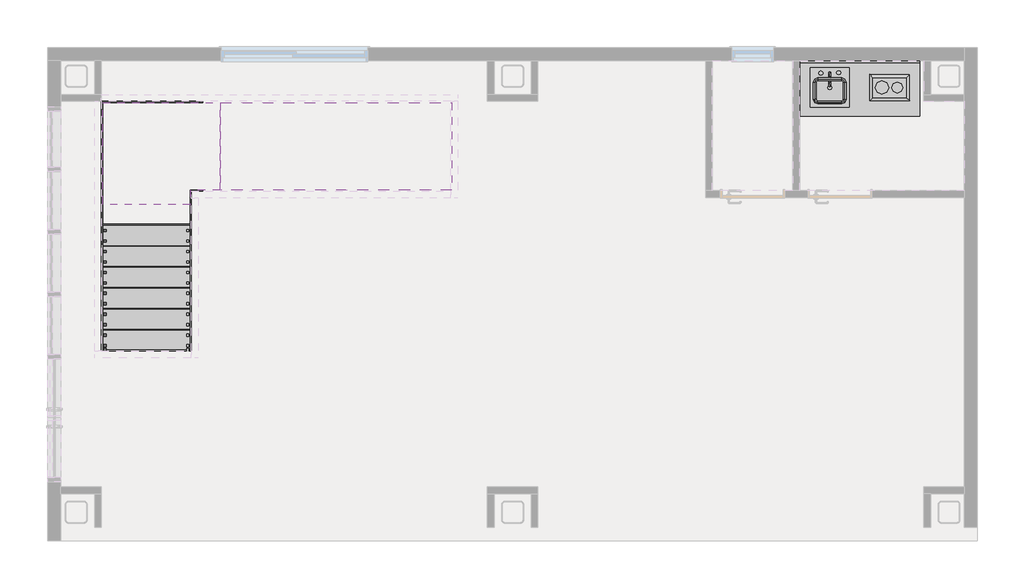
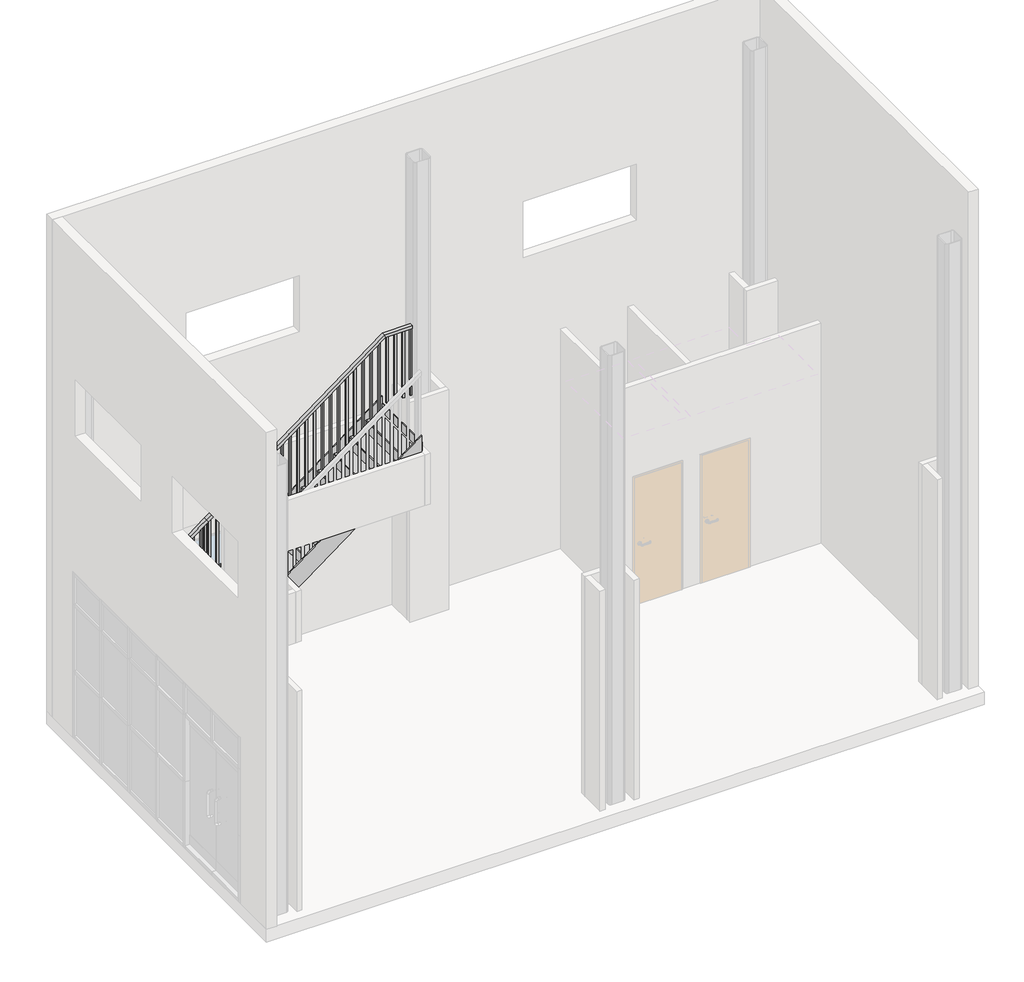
# One storey, part 3 of 3: 7 members, 2 proxies, 2 stair flights, 1 flow terminal, 1 furniture element, 1 railing, 1 slab.
"""IFC4 building model written with IfcOpenShell, lengths in millimetres."""

from ifc_helpers import new_model, si_unit, frame, origin, place, context, project, spatial, polyline, outline, extrude, faceted_brep, transform, mapped, element, save
from components import proxy_1372mm_902c12d3, proxy_305_x_457mm_75991893, flow_terminal_450_x_450mm_65598b4f, furniture_600mm_61525606, slab_593adf1e, stair_flight_b28b8e51, stair_flight_15dfc8d3

model = new_model("IFC4")

# Units and contexts
model_context = context("Model", 3, world=origin())
ifc_project = project(units=[si_unit("LENGTHUNIT", "METRE", prefix="MILLI")], contexts=[model_context])

# Site, building, storey
site = spatial("IfcSite", under=ifc_project)
building = spatial("IfcBuilding", under=site)
storey = spatial("IfcBuildingStorey", under=building, Name="1階", Elevation=200.0)

# Proxies
placement = place(None, origin())
proxy_1372mm_shape = proxy_1372mm_902c12d3(model_context)
element("IfcBuildingElementProxy", 1, Name="システムキッチン - スケール(小) - 3D : 1372mm", ObjectType="システムキッチン - スケール(小) - 3D : 1372mm", at=placement, inside=storey, context=model_context, shape_type="MappedRepresentation", body=[
    mapped(proxy_1372mm_shape, transform((3909.3742386, 2761.0382733, 200.0), x_axis=(1.0, 0.0, 0.0), y_axis=(0.0, 1.0, 0.0), z_axis=(0.0, 0.0, 1.0))),
])
proxy_305_x_457mm_shape = proxy_305_x_457mm_75991893(model_context)
element("IfcBuildingElementProxy", 2, Name="レンジ台-2 ユニット : 305 x 457mm", ObjectType="レンジ台-2 ユニット : 305 x 457mm", at=placement, inside=storey, context=model_context, shape_type="MappedRepresentation", body=[
    mapped(proxy_305_x_457mm_shape, transform((4301.3367391, 2379.8382733, 240.0), x_axis=(0.0, 1.0, 0.0), y_axis=(-1.0, 0.0, 0.0), z_axis=(0.0, 0.0, 1.0))),
])

# Flow terminal
flow_terminal_450_x_450mm_shape = flow_terminal_450_x_450mm_65598b4f(model_context)
element("IfcFlowTerminal", 3, ObjectType="シンク キッチン - アイランド : 450 x 450mm", at=placement, inside=storey, context=model_context, shape_type="MappedRepresentation", body=[
    mapped(flow_terminal_450_x_450mm_shape, transform((3569.422703, 2453.6928722, 240.0), x_axis=(1.0, 0.0, 0.0), y_axis=(0.0, 1.0, 0.0), z_axis=(0.0, 0.0, 1.0))),
])

# Furniture
furniture_600mm_shape = furniture_600mm_61525606(model_context)
element("IfcFurniture", 4, ObjectType="カウンタ シンク開口付 : 600mm", at=placement, inside=storey, context=model_context, shape_type="MappedRepresentation", body=[
    mapped(furniture_600mm_shape, transform((4442.5742386, 2761.0382733, 240.0), x_axis=(1.0, 0.0, 0.0), y_axis=(0.0, 1.0, 0.0), z_axis=(0.0, 0.0, 1.0))),
])

# Members
element("IfcMember", 5, ObjectType="側桁 - メタル - 15 mm 幅 50 mm 奥行き", at=placement, inside=storey, context=model_context, shape_type="SweptSolid", body=[
    extrude(outline(polyline([(-563.9617267, 200.0), (-563.9617267, 486.25), (1021.0382733, 1675.0), (1121.0382733, 1375.0), (-445.6283934, 200.0), (-563.9617267, 200.0)])), frame((-4757.8880564, 0.0, 0.0), z_axis=(1.0, 0.0, 0.0), x_axis=(0.0, 1.0, 0.0)), (0.0, 0.0, 1.0), 15.0),
])
element("IfcMember", 6, ObjectType="側桁 - メタル - 15 mm 幅 50 mm 奥行き", at=placement, inside=storey, context=model_context, shape_type="SweptSolid", body=[
    extrude(outline(polyline([(-563.9617267, 200.0), (-563.9617267, 486.25), (1021.0382733, 1675.0), (1121.0382733, 1375.0), (-445.6283934, 200.0), (-563.9617267, 200.0)])), frame((-3742.8880564, 0.0, 0.0), z_axis=(1.0, 0.0, 0.0), x_axis=(0.0, 1.0, 0.0)), (0.0, 0.0, 1.0), 15.0),
])
element("IfcMember", 7, ObjectType="側桁 - メタル - 15 mm 幅 50 mm 奥行き", at=placement, inside=storey, context=model_context, shape_type="SweptSolid", body=[
    extrude(outline(polyline([(1675.0, -3732.3880564), (1375.0, -3632.3880564), (3531.25, -757.3880564), (3906.25, -757.3880564), (1675.0, -3732.3880564)])), frame((0.0, 2281.5382733, 0.0), z_axis=(0.0, 1.0, 0.0), x_axis=(0.0, 0.0, 1.0)), (0.0, 0.0, 1.0), 15.0),
])
element("IfcMember", 8, ObjectType="側桁 - メタル - 15 mm 幅 50 mm 奥行き", at=placement, inside=storey, context=model_context, shape_type="SweptSolid", body=[
    extrude(outline(polyline([(1678.375, -3727.8880564), (1375.0, -3727.8880564), (1375.0, -3632.3880564), (3531.25, -757.3880564), (3906.25, -757.3880564), (1678.375, -3727.8880564)])), frame((0.0, 1266.5382733, 0.0), z_axis=(0.0, 1.0, 0.0), x_axis=(0.0, 0.0, 1.0)), (0.0, 0.0, 1.0), 15.0),
])
element("IfcMember", 9, ObjectType="側桁 - メタル - 15 mm 幅 50 mm 奥行き", at=placement, inside=storey, context=model_context, shape_type="Brep", body=[
    faceted_brep([(-3732.3880564, 2281.5382733, 1675.0), (-3732.3880564, 2296.5382733, 1675.0), (-4757.8880564, 2296.5382733, 1675.0), (-4742.8880564, 2281.5382733, 1675.0), (-3632.3880564, 2281.5382733, 1375.0), (-4742.8880564, 2281.5382733, 1375.0), (-3632.3880564, 2296.5382733, 1375.0), (-4757.8880564, 2296.5382733, 1375.0)], [[[0, 1, 2, 3]], [[4, 0, 3, 5]], [[6, 4, 5, 7]], [[1, 6, 7, 2]], [[1, 0, 4, 6]], [[2, 7, 5, 3]]]),
])
element("IfcMember", 10, ObjectType="側桁 - メタル - 15 mm 幅 50 mm 奥行き", at=placement, inside=storey, context=model_context, shape_type="Brep", body=[
    faceted_brep([(-4742.8880564, 2281.5382733, 1675.0), (-4757.8880564, 2296.5382733, 1675.0), (-4757.8880564, 1021.0382733, 1675.0), (-4742.8880564, 1021.0382733, 1675.0), (-4742.8880564, 2281.5382733, 1375.0), (-4742.8880564, 1121.0382733, 1375.0), (-4757.8880564, 2296.5382733, 1375.0), (-4757.8880564, 1121.0382733, 1375.0)], [[[0, 1, 2, 3]], [[4, 0, 3, 5]], [[6, 4, 5, 7]], [[1, 6, 7, 2]], [[1, 0, 4, 6]], [[2, 7, 5, 3]]]),
])
element("IfcMember", 11, ObjectType="側桁 - メタル - 15 mm 幅 50 mm 奥行き", at=placement, inside=storey, context=model_context, shape_type="SweptSolid", body=[
    extrude(outline(polyline([(1121.0382733, 1375.0), (1021.0382733, 1675.0), (1281.5382733, 1675.0), (1281.5382733, 1375.0), (1121.0382733, 1375.0)])), frame((-3742.8880564, 0.0, 0.0), z_axis=(1.0, 0.0, 0.0), x_axis=(0.0, 1.0, 0.0)), (0.0, 0.0, 1.0), 15.0),
])

# Railing
element("IfcRailing", 12, ObjectType="1100mm", at=placement, inside=storey, context=model_context, shape_type="SolidModel", body=[
    faceted_brep([(-4742.4880564, -563.9617267, 1480.0), (-4742.4880564, -563.9617267, 1417.5), (-4692.4880564, -563.9617267, 1417.5), (-4692.4880564, -563.9617267, 1480.0), (-4742.4880564, 1116.0382733, 2740.0), (-4742.4880564, 1132.7049399, 2690.0), (-4692.4880564, 1132.7049399, 2690.0), (-4692.4880564, 1116.0382733, 2740.0), (-4742.4880564, 2281.1382733, 2740.0), (-4742.4880564, 2281.1382733, 2690.0), (-4692.4880564, 2231.1382733, 2690.0), (-4692.4880564, 2231.1382733, 2740.0), (-3637.3880564, 2281.1382733, 2740.0), (-3620.7213898, 2281.1382733, 2690.0), (-3620.7213898, 2231.1382733, 2690.0), (-3637.3880564, 2231.1382733, 2740.0), (-3397.3880564, 2281.1382733, 2920.0), (-3367.3880564, 2281.1382733, 2880.0), (-3367.3880564, 2231.1382733, 2880.0), (-3397.3880564, 2231.1382733, 2920.0), (-757.3880564, 2281.1382733, 4900.0), (-740.7213898, 2281.1382733, 4850.0), (-740.7213898, 2231.1382733, 4850.0), (-757.3880564, 2231.1382733, 4900.0), (-337.3880564, 2281.1382733, 4900.0), (-337.3880564, 2231.1382733, 4900.0), (-337.3880564, 2231.1382733, 4850.0), (-337.3880564, 2281.1382733, 4850.0)], [[[0, 1, 2, 3]], [[1, 0, 4, 5]], [[2, 1, 5, 6]], [[3, 2, 6, 7]], [[0, 3, 7, 4]], [[5, 4, 8, 9]], [[6, 5, 9, 10]], [[7, 6, 10, 11]], [[4, 7, 11, 8]], [[9, 8, 12, 13]], [[10, 9, 13, 14]], [[11, 10, 14, 15]], [[8, 11, 15, 12]], [[13, 12, 16, 17]], [[14, 13, 17, 18]], [[15, 14, 18, 19]], [[12, 15, 19, 16]], [[17, 16, 20, 21]], [[18, 17, 21, 22]], [[19, 18, 22, 23]], [[16, 19, 23, 20]], [[24, 25, 26, 27]], [[21, 20, 24, 27]], [[22, 21, 27, 26]], [[23, 22, 26, 25]], [[20, 23, 25, 24]]]),
    extrude(outline(polyline([(-469.8880564, 2268.6382733), (-444.8880564, 2268.6382733), (-444.8880564, 2243.6382733), (-469.8880564, 2243.6382733), (-469.8880564, 2268.6382733)])), frame((0.0, 0.0, 3800.0), z_axis=(0.0, 0.0, 1.0), x_axis=(1.0, 0.0, 0.0)), (0.0, 0.0, 1.0), 1050.0),
    extrude(outline(polyline([(-589.8880564, 2268.6382733), (-564.8880564, 2268.6382733), (-564.8880564, 2243.6382733), (-589.8880564, 2243.6382733), (-589.8880564, 2268.6382733)])), frame((0.0, 0.0, 3800.0), z_axis=(0.0, 0.0, 1.0), x_axis=(1.0, 0.0, 0.0)), (0.0, 0.0, 1.0), 1050.0),
    extrude(outline(polyline([(-709.8880564, 2268.6382733), (-684.8880564, 2268.6382733), (-684.8880564, 2243.6382733), (-709.8880564, 2243.6382733), (-709.8880564, 2268.6382733)])), frame((0.0, 0.0, 3800.0), z_axis=(0.0, 0.0, 1.0), x_axis=(1.0, 0.0, 0.0)), (0.0, 0.0, 1.0), 1050.0),
    extrude(outline(polyline([(3620.0, -829.8880564), (3620.0, -804.8880564), (4801.875, -804.8880564), (4783.125, -829.8880564), (3620.0, -829.8880564)])), frame((0.0, 2243.6382733, 0.0), z_axis=(0.0, 1.0, 0.0), x_axis=(0.0, 0.0, 1.0)), (0.0, 0.0, 1.0), 25.0),
    extrude(outline(polyline([(3620.0, -949.8880564), (3620.0, -924.8880564), (4711.875, -924.8880564), (4693.125, -949.8880564), (3620.0, -949.8880564)])), frame((0.0, 2243.6382733, 0.0), z_axis=(0.0, 1.0, 0.0), x_axis=(0.0, 0.0, 1.0)), (0.0, 0.0, 1.0), 25.0),
    extrude(outline(polyline([(3440.0, -1069.8880564), (3440.0, -1044.8880564), (4621.875, -1044.8880564), (4603.125, -1069.8880564), (3440.0, -1069.8880564)])), frame((0.0, 2243.6382733, 0.0), z_axis=(0.0, 1.0, 0.0), x_axis=(0.0, 0.0, 1.0)), (0.0, 0.0, 1.0), 25.0),
    extrude(outline(polyline([(3440.0, -1189.8880564), (3440.0, -1164.8880564), (4531.875, -1164.8880564), (4513.125, -1189.8880564), (3440.0, -1189.8880564)])), frame((0.0, 2243.6382733, 0.0), z_axis=(0.0, 1.0, 0.0), x_axis=(0.0, 0.0, 1.0)), (0.0, 0.0, 1.0), 25.0),
    extrude(outline(polyline([(3260.0, -1309.8880564), (3260.0, -1284.8880564), (4441.875, -1284.8880564), (4423.125, -1309.8880564), (3260.0, -1309.8880564)])), frame((0.0, 2243.6382733, 0.0), z_axis=(0.0, 1.0, 0.0), x_axis=(0.0, 0.0, 1.0)), (0.0, 0.0, 1.0), 25.0),
    extrude(outline(polyline([(3260.0, -1429.8880564), (3260.0, -1404.8880564), (4351.875, -1404.8880564), (4333.125, -1429.8880564), (3260.0, -1429.8880564)])), frame((0.0, 2243.6382733, 0.0), z_axis=(0.0, 1.0, 0.0), x_axis=(0.0, 0.0, 1.0)), (0.0, 0.0, 1.0), 25.0),
    extrude(outline(polyline([(3080.0, -1549.8880564), (3080.0, -1524.8880564), (4261.875, -1524.8880564), (4243.125, -1549.8880564), (3080.0, -1549.8880564)])), frame((0.0, 2243.6382733, 0.0), z_axis=(0.0, 1.0, 0.0), x_axis=(0.0, 0.0, 1.0)), (0.0, 0.0, 1.0), 25.0),
    extrude(outline(polyline([(3080.0, -1669.8880564), (3080.0, -1644.8880564), (4171.875, -1644.8880564), (4153.125, -1669.8880564), (3080.0, -1669.8880564)])), frame((0.0, 2243.6382733, 0.0), z_axis=(0.0, 1.0, 0.0), x_axis=(0.0, 0.0, 1.0)), (0.0, 0.0, 1.0), 25.0),
    extrude(outline(polyline([(2900.0, -1789.8880564), (2900.0, -1764.8880564), (4081.875, -1764.8880564), (4063.125, -1789.8880564), (2900.0, -1789.8880564)])), frame((0.0, 2243.6382733, 0.0), z_axis=(0.0, 1.0, 0.0), x_axis=(0.0, 0.0, 1.0)), (0.0, 0.0, 1.0), 25.0),
    extrude(outline(polyline([(2900.0, -1909.8880564), (2900.0, -1884.8880564), (3991.875, -1884.8880564), (3973.125, -1909.8880564), (2900.0, -1909.8880564)])), frame((0.0, 2243.6382733, 0.0), z_axis=(0.0, 1.0, 0.0), x_axis=(0.0, 0.0, 1.0)), (0.0, 0.0, 1.0), 25.0),
    extrude(outline(polyline([(2720.0, -2029.8880564), (2720.0, -2004.8880564), (3901.875, -2004.8880564), (3883.125, -2029.8880564), (2720.0, -2029.8880564)])), frame((0.0, 2243.6382733, 0.0), z_axis=(0.0, 1.0, 0.0), x_axis=(0.0, 0.0, 1.0)), (0.0, 0.0, 1.0), 25.0),
    extrude(outline(polyline([(2720.0, -2149.8880564), (2720.0, -2124.8880564), (3811.875, -2124.8880564), (3793.125, -2149.8880564), (2720.0, -2149.8880564)])), frame((0.0, 2243.6382733, 0.0), z_axis=(0.0, 1.0, 0.0), x_axis=(0.0, 0.0, 1.0)), (0.0, 0.0, 1.0), 25.0),
    extrude(outline(polyline([(2540.0, -2269.8880564), (2540.0, -2244.8880564), (3721.875, -2244.8880564), (3703.125, -2269.8880564), (2540.0, -2269.8880564)])), frame((0.0, 2243.6382733, 0.0), z_axis=(0.0, 1.0, 0.0), x_axis=(0.0, 0.0, 1.0)), (0.0, 0.0, 1.0), 25.0),
    extrude(outline(polyline([(2540.0, -2389.8880564), (2540.0, -2364.8880564), (3631.875, -2364.8880564), (3613.125, -2389.8880564), (2540.0, -2389.8880564)])), frame((0.0, 2243.6382733, 0.0), z_axis=(0.0, 1.0, 0.0), x_axis=(0.0, 0.0, 1.0)), (0.0, 0.0, 1.0), 25.0),
    extrude(outline(polyline([(2360.0, -2509.8880564), (2360.0, -2484.8880564), (3541.875, -2484.8880564), (3523.125, -2509.8880564), (2360.0, -2509.8880564)])), frame((0.0, 2243.6382733, 0.0), z_axis=(0.0, 1.0, 0.0), x_axis=(0.0, 0.0, 1.0)), (0.0, 0.0, 1.0), 25.0),
    extrude(outline(polyline([(2360.0, -2629.8880564), (2360.0, -2604.8880564), (3451.875, -2604.8880564), (3433.125, -2629.8880564), (2360.0, -2629.8880564)])), frame((0.0, 2243.6382733, 0.0), z_axis=(0.0, 1.0, 0.0), x_axis=(0.0, 0.0, 1.0)), (0.0, 0.0, 1.0), 25.0),
    extrude(outline(polyline([(2180.0, -2749.8880564), (2180.0, -2724.8880564), (3361.875, -2724.8880564), (3343.125, -2749.8880564), (2180.0, -2749.8880564)])), frame((0.0, 2243.6382733, 0.0), z_axis=(0.0, 1.0, 0.0), x_axis=(0.0, 0.0, 1.0)), (0.0, 0.0, 1.0), 25.0),
    extrude(outline(polyline([(2180.0, -2869.8880564), (2180.0, -2844.8880564), (3271.875, -2844.8880564), (3253.125, -2869.8880564), (2180.0, -2869.8880564)])), frame((0.0, 2243.6382733, 0.0), z_axis=(0.0, 1.0, 0.0), x_axis=(0.0, 0.0, 1.0)), (0.0, 0.0, 1.0), 25.0),
    extrude(outline(polyline([(2000.0, -2989.8880564), (2000.0, -2964.8880564), (3181.875, -2964.8880564), (3163.125, -2989.8880564), (2000.0, -2989.8880564)])), frame((0.0, 2243.6382733, 0.0), z_axis=(0.0, 1.0, 0.0), x_axis=(0.0, 0.0, 1.0)), (0.0, 0.0, 1.0), 25.0),
    extrude(outline(polyline([(2000.0, -3109.8880564), (2000.0, -3084.8880564), (3091.875, -3084.8880564), (3073.125, -3109.8880564), (2000.0, -3109.8880564)])), frame((0.0, 2243.6382733, 0.0), z_axis=(0.0, 1.0, 0.0), x_axis=(0.0, 0.0, 1.0)), (0.0, 0.0, 1.0), 25.0),
    extrude(outline(polyline([(1820.0, -3229.8880564), (1820.0, -3204.8880564), (3001.875, -3204.8880564), (2983.125, -3229.8880564), (1820.0, -3229.8880564)])), frame((0.0, 2243.6382733, 0.0), z_axis=(0.0, 1.0, 0.0), x_axis=(0.0, 0.0, 1.0)), (0.0, 0.0, 1.0), 25.0),
    extrude(outline(polyline([(1820.0, -3349.8880564), (1820.0, -3324.8880564), (2911.875, -3324.8880564), (2893.125, -3349.8880564), (1820.0, -3349.8880564)])), frame((0.0, 2243.6382733, 0.0), z_axis=(0.0, 1.0, 0.0), x_axis=(0.0, 0.0, 1.0)), (0.0, 0.0, 1.0), 25.0),
    extrude(outline(polyline([(1640.0, -3469.9880564), (1640.0, -3444.9880564), (2821.8, -3444.9880564), (2803.05, -3469.9880564), (1640.0, -3469.9880564)])), frame((0.0, 2243.6382733, 0.0), z_axis=(0.0, 1.0, 0.0), x_axis=(0.0, 0.0, 1.0)), (0.0, 0.0, 1.0), 25.0),
    extrude(outline(polyline([(1640.0, -3589.9880564), (1640.0, -3564.9880564), (2731.8, -3564.9880564), (2713.05, -3589.9880564), (1640.0, -3589.9880564)])), frame((0.0, 2243.6382733, 0.0), z_axis=(0.0, 1.0, 0.0), x_axis=(0.0, 0.0, 1.0)), (0.0, 0.0, 1.0), 25.0),
    extrude(outline(polyline([(-3709.9880564, 2268.6382733), (-3684.9880564, 2268.6382733), (-3684.9880564, 2243.6382733), (-3709.9880564, 2243.6382733), (-3709.9880564, 2268.6382733)])), frame((0.0, 0.0, 1640.0), z_axis=(0.0, 0.0, 1.0), x_axis=(1.0, 0.0, 0.0)), (0.0, 0.0, 1.0), 1050.0),
    extrude(outline(polyline([(-3829.9880564, 2268.6382733), (-3804.9880564, 2268.6382733), (-3804.9880564, 2243.6382733), (-3829.9880564, 2243.6382733), (-3829.9880564, 2268.6382733)])), frame((0.0, 0.0, 1640.0), z_axis=(0.0, 0.0, 1.0), x_axis=(1.0, 0.0, 0.0)), (0.0, 0.0, 1.0), 1050.0),
    extrude(outline(polyline([(-3949.9880564, 2268.6382733), (-3924.9880564, 2268.6382733), (-3924.9880564, 2243.6382733), (-3949.9880564, 2243.6382733), (-3949.9880564, 2268.6382733)])), frame((0.0, 0.0, 1640.0), z_axis=(0.0, 0.0, 1.0), x_axis=(1.0, 0.0, 0.0)), (0.0, 0.0, 1.0), 1050.0),
    extrude(outline(polyline([(-4069.9880564, 2268.6382733), (-4044.9880564, 2268.6382733), (-4044.9880564, 2243.6382733), (-4069.9880564, 2243.6382733), (-4069.9880564, 2268.6382733)])), frame((0.0, 0.0, 1640.0), z_axis=(0.0, 0.0, 1.0), x_axis=(1.0, 0.0, 0.0)), (0.0, 0.0, 1.0), 1050.0),
    extrude(outline(polyline([(-4189.9880564, 2268.6382733), (-4164.9880564, 2268.6382733), (-4164.9880564, 2243.6382733), (-4189.9880564, 2243.6382733), (-4189.9880564, 2268.6382733)])), frame((0.0, 0.0, 1640.0), z_axis=(0.0, 0.0, 1.0), x_axis=(1.0, 0.0, 0.0)), (0.0, 0.0, 1.0), 1050.0),
    extrude(outline(polyline([(-4309.9880564, 2268.6382733), (-4284.9880564, 2268.6382733), (-4284.9880564, 2243.6382733), (-4309.9880564, 2243.6382733), (-4309.9880564, 2268.6382733)])), frame((0.0, 0.0, 1640.0), z_axis=(0.0, 0.0, 1.0), x_axis=(1.0, 0.0, 0.0)), (0.0, 0.0, 1.0), 1050.0),
    extrude(outline(polyline([(-4429.9880564, 2268.6382733), (-4404.9880564, 2268.6382733), (-4404.9880564, 2243.6382733), (-4429.9880564, 2243.6382733), (-4429.9880564, 2268.6382733)])), frame((0.0, 0.0, 1640.0), z_axis=(0.0, 0.0, 1.0), x_axis=(1.0, 0.0, 0.0)), (0.0, 0.0, 1.0), 1050.0),
    extrude(outline(polyline([(-4549.9880564, 2268.6382733), (-4524.9880564, 2268.6382733), (-4524.9880564, 2243.6382733), (-4549.9880564, 2243.6382733), (-4549.9880564, 2268.6382733)])), frame((0.0, 0.0, 1640.0), z_axis=(0.0, 0.0, 1.0), x_axis=(1.0, 0.0, 0.0)), (0.0, 0.0, 1.0), 1050.0),
    extrude(outline(polyline([(-4669.9880564, 2268.6382733), (-4644.9880564, 2268.6382733), (-4644.9880564, 2243.6382733), (-4669.9880564, 2243.6382733), (-4669.9880564, 2268.6382733)])), frame((0.0, 0.0, 1640.0), z_axis=(0.0, 0.0, 1.0), x_axis=(1.0, 0.0, 0.0)), (0.0, 0.0, 1.0), 1050.0),
    extrude(outline(polyline([(-4729.9880564, 2243.5382733), (-4729.9880564, 2268.5382733), (-4704.9880564, 2268.5382733), (-4704.9880564, 2243.5382733), (-4729.9880564, 2243.5382733)])), frame((0.0, 0.0, 1640.0), z_axis=(0.0, 0.0, 1.0), x_axis=(1.0, 0.0, 0.0)), (0.0, 0.0, 1.0), 1050.0),
    extrude(outline(polyline([(-4729.9880564, 2123.5382733), (-4729.9880564, 2148.5382733), (-4704.9880564, 2148.5382733), (-4704.9880564, 2123.5382733), (-4729.9880564, 2123.5382733)])), frame((0.0, 0.0, 1640.0), z_axis=(0.0, 0.0, 1.0), x_axis=(1.0, 0.0, 0.0)), (0.0, 0.0, 1.0), 1050.0),
    extrude(outline(polyline([(-4729.9880564, 2003.5382733), (-4729.9880564, 2028.5382733), (-4704.9880564, 2028.5382733), (-4704.9880564, 2003.5382733), (-4729.9880564, 2003.5382733)])), frame((0.0, 0.0, 1640.0), z_axis=(0.0, 0.0, 1.0), x_axis=(1.0, 0.0, 0.0)), (0.0, 0.0, 1.0), 1050.0),
    extrude(outline(polyline([(-4729.9880564, 1883.5382733), (-4729.9880564, 1908.5382733), (-4704.9880564, 1908.5382733), (-4704.9880564, 1883.5382733), (-4729.9880564, 1883.5382733)])), frame((0.0, 0.0, 1640.0), z_axis=(0.0, 0.0, 1.0), x_axis=(1.0, 0.0, 0.0)), (0.0, 0.0, 1.0), 1050.0),
    extrude(outline(polyline([(-4729.9880564, 1763.5382733), (-4729.9880564, 1788.5382733), (-4704.9880564, 1788.5382733), (-4704.9880564, 1763.5382733), (-4729.9880564, 1763.5382733)])), frame((0.0, 0.0, 1640.0), z_axis=(0.0, 0.0, 1.0), x_axis=(1.0, 0.0, 0.0)), (0.0, 0.0, 1.0), 1050.0),
    extrude(outline(polyline([(-4729.9880564, 1643.5382733), (-4729.9880564, 1668.5382733), (-4704.9880564, 1668.5382733), (-4704.9880564, 1643.5382733), (-4729.9880564, 1643.5382733)])), frame((0.0, 0.0, 1640.0), z_axis=(0.0, 0.0, 1.0), x_axis=(1.0, 0.0, 0.0)), (0.0, 0.0, 1.0), 1050.0),
    extrude(outline(polyline([(-4729.9880564, 1523.5382733), (-4729.9880564, 1548.5382733), (-4704.9880564, 1548.5382733), (-4704.9880564, 1523.5382733), (-4729.9880564, 1523.5382733)])), frame((0.0, 0.0, 1640.0), z_axis=(0.0, 0.0, 1.0), x_axis=(1.0, 0.0, 0.0)), (0.0, 0.0, 1.0), 1050.0),
    extrude(outline(polyline([(-4729.9880564, 1403.5382733), (-4729.9880564, 1428.5382733), (-4704.9880564, 1428.5382733), (-4704.9880564, 1403.5382733), (-4729.9880564, 1403.5382733)])), frame((0.0, 0.0, 1640.0), z_axis=(0.0, 0.0, 1.0), x_axis=(1.0, 0.0, 0.0)), (0.0, 0.0, 1.0), 1050.0),
    extrude(outline(polyline([(-4729.9880564, 1283.5382733), (-4729.9880564, 1308.5382733), (-4704.9880564, 1308.5382733), (-4704.9880564, 1283.5382733), (-4729.9880564, 1283.5382733)])), frame((0.0, 0.0, 1640.0), z_axis=(0.0, 0.0, 1.0), x_axis=(1.0, 0.0, 0.0)), (0.0, 0.0, 1.0), 1050.0),
    extrude(outline(polyline([(-4729.9880564, 1163.5382733), (-4729.9880564, 1188.5382733), (-4704.9880564, 1188.5382733), (-4704.9880564, 1163.5382733), (-4729.9880564, 1163.5382733)])), frame((0.0, 0.0, 1640.0), z_axis=(0.0, 0.0, 1.0), x_axis=(1.0, 0.0, 0.0)), (0.0, 0.0, 1.0), 1050.0),
    extrude(outline(polyline([(1043.5382733, 2623.125), (1068.5382733, 2641.875), (1068.5382733, 1460.0), (1043.5382733, 1460.0), (1043.5382733, 2623.125)])), frame((-4729.9880564, 0.0, 0.0), z_axis=(1.0, 0.0, 0.0), x_axis=(0.0, 1.0, 0.0)), (0.0, 0.0, 1.0), 25.0),
    extrude(outline(polyline([(923.5382733, 2533.125), (948.5382733, 2551.875), (948.5382733, 1460.0), (923.5382733, 1460.0), (923.5382733, 2533.125)])), frame((-4729.9880564, 0.0, 0.0), z_axis=(1.0, 0.0, 0.0), x_axis=(0.0, 1.0, 0.0)), (0.0, 0.0, 1.0), 25.0),
    extrude(outline(polyline([(803.5382733, 2443.125), (828.5382733, 2461.875), (828.5382733, 1280.0), (803.5382733, 1280.0), (803.5382733, 2443.125)])), frame((-4729.9880564, 0.0, 0.0), z_axis=(1.0, 0.0, 0.0), x_axis=(0.0, 1.0, 0.0)), (0.0, 0.0, 1.0), 25.0),
    extrude(outline(polyline([(683.5382733, 2353.125), (708.5382733, 2371.875), (708.5382733, 1280.0), (683.5382733, 1280.0), (683.5382733, 2353.125)])), frame((-4729.9880564, 0.0, 0.0), z_axis=(1.0, 0.0, 0.0), x_axis=(0.0, 1.0, 0.0)), (0.0, 0.0, 1.0), 25.0),
    extrude(outline(polyline([(563.5382733, 2263.125), (588.5382733, 2281.875), (588.5382733, 1100.0), (563.5382733, 1100.0), (563.5382733, 2263.125)])), frame((-4729.9880564, 0.0, 0.0), z_axis=(1.0, 0.0, 0.0), x_axis=(0.0, 1.0, 0.0)), (0.0, 0.0, 1.0), 25.0),
    extrude(outline(polyline([(443.5382733, 2173.125), (468.5382733, 2191.875), (468.5382733, 1100.0), (443.5382733, 1100.0), (443.5382733, 2173.125)])), frame((-4729.9880564, 0.0, 0.0), z_axis=(1.0, 0.0, 0.0), x_axis=(0.0, 1.0, 0.0)), (0.0, 0.0, 1.0), 25.0),
    extrude(outline(polyline([(323.5382733, 2083.125), (348.5382733, 2101.875), (348.5382733, 920.0), (323.5382733, 920.0), (323.5382733, 2083.125)])), frame((-4729.9880564, 0.0, 0.0), z_axis=(1.0, 0.0, 0.0), x_axis=(0.0, 1.0, 0.0)), (0.0, 0.0, 1.0), 25.0),
    extrude(outline(polyline([(203.5382733, 1993.125), (228.5382733, 2011.875), (228.5382733, 920.0), (203.5382733, 920.0), (203.5382733, 1993.125)])), frame((-4729.9880564, 0.0, 0.0), z_axis=(1.0, 0.0, 0.0), x_axis=(0.0, 1.0, 0.0)), (0.0, 0.0, 1.0), 25.0),
    extrude(outline(polyline([(83.5382733, 1903.125), (108.5382733, 1921.875), (108.5382733, 740.0), (83.5382733, 740.0), (83.5382733, 1903.125)])), frame((-4729.9880564, 0.0, 0.0), z_axis=(1.0, 0.0, 0.0), x_axis=(0.0, 1.0, 0.0)), (0.0, 0.0, 1.0), 25.0),
    extrude(outline(polyline([(-36.4617267, 1813.125), (-11.4617267, 1831.875), (-11.4617267, 740.0), (-36.4617267, 740.0), (-36.4617267, 1813.125)])), frame((-4729.9880564, 0.0, 0.0), z_axis=(1.0, 0.0, 0.0), x_axis=(0.0, 1.0, 0.0)), (0.0, 0.0, 1.0), 25.0),
    extrude(outline(polyline([(-156.4617267, 1723.125), (-131.4617267, 1741.875), (-131.4617267, 560.0), (-156.4617267, 560.0), (-156.4617267, 1723.125)])), frame((-4729.9880564, 0.0, 0.0), z_axis=(1.0, 0.0, 0.0), x_axis=(0.0, 1.0, 0.0)), (0.0, 0.0, 1.0), 25.0),
    extrude(outline(polyline([(-276.4617267, 1633.125), (-251.4617267, 1651.875), (-251.4617267, 560.0), (-276.4617267, 560.0), (-276.4617267, 1633.125)])), frame((-4729.9880564, 0.0, 0.0), z_axis=(1.0, 0.0, 0.0), x_axis=(0.0, 1.0, 0.0)), (0.0, 0.0, 1.0), 25.0),
    extrude(outline(polyline([(-396.4617267, 1543.125), (-371.4617267, 1561.875), (-371.4617267, 380.0), (-396.4617267, 380.0), (-396.4617267, 1543.125)])), frame((-4729.9880564, 0.0, 0.0), z_axis=(1.0, 0.0, 0.0), x_axis=(0.0, 1.0, 0.0)), (0.0, 0.0, 1.0), 25.0),
    extrude(outline(polyline([(-516.4617267, 1453.125), (-491.4617267, 1471.875), (-491.4617267, 380.0), (-516.4617267, 380.0), (-516.4617267, 1453.125)])), frame((-4729.9880564, 0.0, 0.0), z_axis=(1.0, 0.0, 0.0), x_axis=(0.0, 1.0, 0.0)), (0.0, 0.0, 1.0), 25.0),
    extrude(outline(polyline([(1640.0, -3409.8880564), (1640.0, -3384.8880564), (2866.875, -3384.8880564), (2848.125, -3409.8880564), (1640.0, -3409.8880564)])), frame((0.0, 2243.6382733, 0.0), z_axis=(0.0, 1.0, 0.0), x_axis=(0.0, 0.0, 1.0)), (0.0, 0.0, 1.0), 25.0),
    extrude(outline(polyline([(-4729.9880564, 2243.6382733), (-4729.9880564, 2268.6382733), (-4704.9880564, 2268.6382733), (-4704.9880564, 2243.6382733), (-4729.9880564, 2243.6382733)])), frame((0.0, 0.0, 1640.0), z_axis=(0.0, 0.0, 1.0), x_axis=(1.0, 0.0, 0.0)), (0.0, 0.0, 1.0), 1050.0),
    extrude(outline(polyline([(1103.5382733, 2668.125), (1128.5382733, 2686.875), (1128.5382733, 1640.0), (1103.5382733, 1640.0), (1103.5382733, 2668.125)])), frame((-4729.9880564, 0.0, 0.0), z_axis=(1.0, 0.0, 0.0), x_axis=(0.0, 1.0, 0.0)), (0.0, 0.0, 1.0), 25.0),
    extrude(outline(polyline([(-362.3880564, 2268.6382733), (-337.3880564, 2268.6382733), (-337.3880564, 2243.6382733), (-362.3880564, 2243.6382733), (-362.3880564, 2268.6382733)])), frame((0.0, 0.0, 3800.0), z_axis=(0.0, 0.0, 1.0), x_axis=(1.0, 0.0, 0.0)), (0.0, 0.0, 1.0), 1050.0),
    extrude(outline(polyline([(-563.9617267, 1417.5), (-538.9617267, 1436.25), (-538.9617267, 380.0), (-563.9617267, 380.0), (-563.9617267, 1417.5)])), frame((-4729.9880564, 0.0, 0.0), z_axis=(1.0, 0.0, 0.0), x_axis=(0.0, 1.0, 0.0)), (0.0, 0.0, 1.0), 25.0),
])

# Slab
slab_shape = slab_593adf1e(model_context)
element("IfcSlab", 13, ObjectType="一体型ではない踊り場", at=placement, inside=storey, context=model_context, shape_type="MappedRepresentation", body=[
    mapped(slab_shape, transform((0.0, 0.0, 0.0), x_axis=(1.0, 0.0, 0.0), y_axis=(0.0, 1.0, 0.0), z_axis=(0.0, 0.0, 1.0))),
])

# Stair flights
stair_flight_shape = stair_flight_b28b8e51(model_context)
element("IfcStairFlight", 14, ObjectType="メタル階段 15 mm 踏み板 15 mm 蹴上げ", at=placement, inside=storey, context=model_context, shape_type="MappedRepresentation", body=[
    mapped(stair_flight_shape, transform((0.0, 0.0, 0.0), x_axis=(1.0, 0.0, 0.0), y_axis=(0.0, 1.0, 0.0), z_axis=(0.0, 0.0, 1.0))),
])
stair_flight_2_shape = stair_flight_15dfc8d3(model_context)
element("IfcStairFlight", 15, ObjectType="メタル階段 15 mm 踏み板 15 mm 蹴上げ", at=placement, inside=storey, context=model_context, shape_type="MappedRepresentation", body=[
    mapped(stair_flight_2_shape, transform((0.0, 0.0, 0.0), x_axis=(1.0, 0.0, 0.0), y_axis=(0.0, 1.0, 0.0), z_axis=(0.0, 0.0, 1.0))),
])

save(model, "model.ifc")
